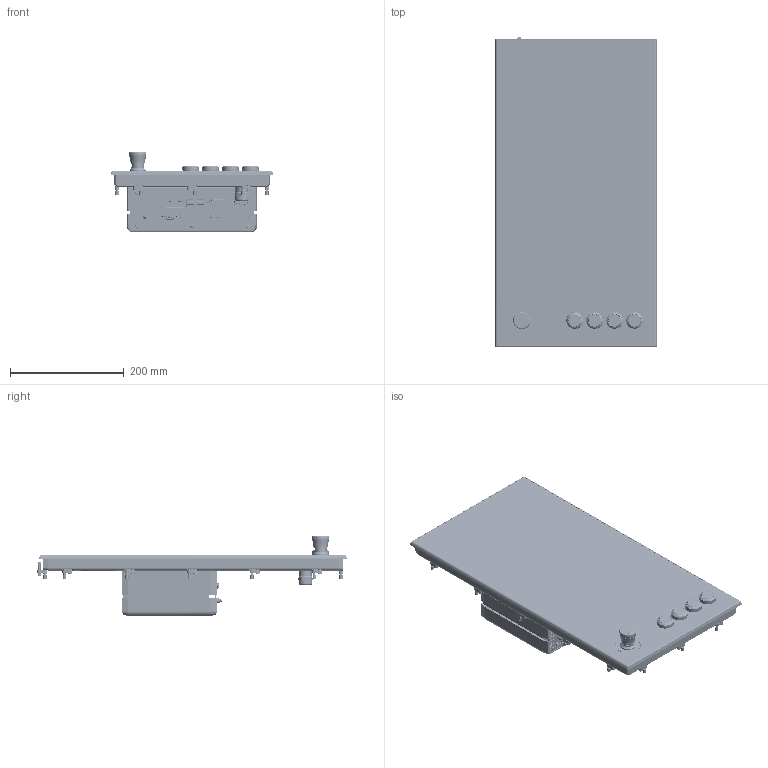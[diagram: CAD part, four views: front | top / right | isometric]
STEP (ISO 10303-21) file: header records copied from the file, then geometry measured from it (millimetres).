
FILE_DESCRIPTION(/* description */ ('Darstellung für STEP CP2218-G015'),/* implementation_level */ '2;1');
FILE_NAME(/* name */ 'C:\_Vault-Workspace\CAD-Daten\Projekte\Projekte_serie\CP\CP2\CP22\Export\CP2215-G015_Porträt_TEW\CP2218-G015.stp',/* time_stamp */ '2014-05-12T12:57:07+02:00',/* author */ ('JenniferF'),/* organization */ (''),/* preprocessor_version */ 'ST-DEVELOPER v15.2',/* originating_system */ 'Autodesk Inventor 2014',/* authorisation */ '');
FILE_SCHEMA (('CONFIG_CONTROL_DESIGN'));
Products named in the file (1): DS_CP2218-G015
Bounding box: 286.6 x 546.2 x 140.93 mm (x, y, z)
Volume: 6646658 mm3; surface area: 685965.1 mm2
Topology: 6 solids, 135 shells, 8638 faces, 23559 edges, 15332 vertices
Faces by surface type: plane 5249, cylinder 2238, cone 457, bspline 402, torus 280, sphere 12
Full cylindrical faces by diameter (mm): 1.01 x9, 1.07 x9, 1.2 x9, 1.56 x9, 1.567 x2, 1.58 x9, 1.6 x2, 1.65 x9, 2.1 x9, 2.15 x4, 2.156 x2, 2.3 x2, 2.459 x7, 2.693 x7, 2.788 x2, 2.8 x2, 3 x26, 3.05 x2, 3.2 x14, 3.242 x1, 3.3 x6, 3.4 x7, 3.683 x2, 4 x44, 4.1 x3, 4.22 x4, 4.25 x4, 4.3 x4, 4.4 x16, 4.6 x2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
Entity records: 298626 total; most frequent: CARTESIAN_POINT 75270, ORIENTED_EDGE 44700, DIRECTION 42409, EDGE_CURVE 22332, LINE 15131, VECTOR 15131, VERTEX_POINT 14987, AXIS2_PLACEMENT_3D 13639
